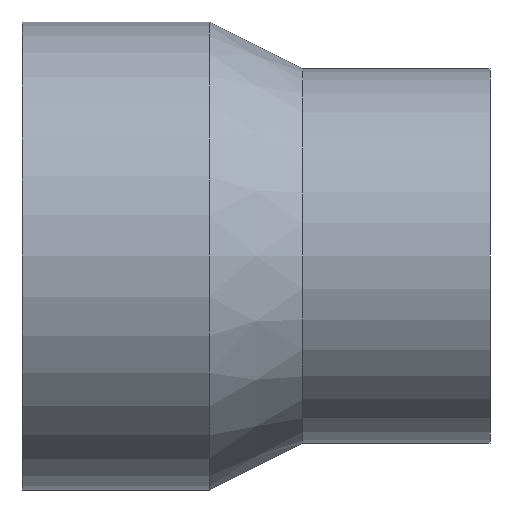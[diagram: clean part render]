
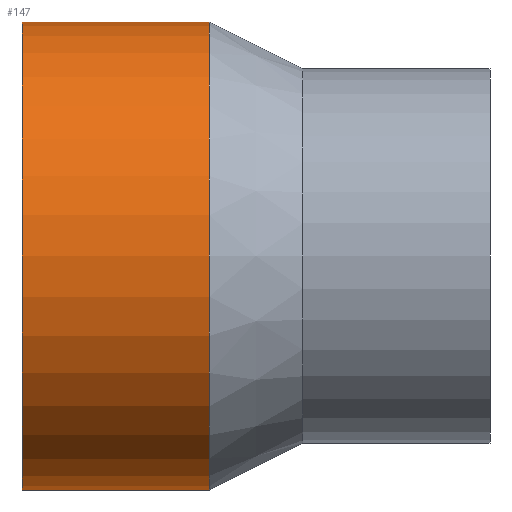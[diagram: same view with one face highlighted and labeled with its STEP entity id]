
A CAD part, front view. The second image highlights one B-rep face of the part: STEP entity #147.
In plain terms, the highlighted cylindrical face has radius 31.75 mm (diameter 63.5 mm), a partial arc.
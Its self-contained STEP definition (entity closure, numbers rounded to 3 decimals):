
#5 = ORIENTED_EDGE ( 'NONE', *, *, #163, .T. ) ;
#38 = CARTESIAN_POINT ( 'NONE',  ( -63.937, 0., -31.75 ) ) ;
#52 = DIRECTION ( 'NONE',  ( -1., 0., 0. ) ) ;
#76 = CARTESIAN_POINT ( 'NONE',  ( -63.937, 0., 0. ) ) ;
#85 = DIRECTION ( 'NONE',  ( -1., 0., 0. ) ) ;
#91 = CIRCLE ( 'NONE', #379, 31.75 ) ;
#92 = DIRECTION ( 'NONE',  ( -1., 0., 0. ) ) ;
#103 = EDGE_LOOP ( 'NONE', ( #331, #332, #5, #271 ) ) ;
#106 = DIRECTION ( 'NONE',  ( 0., 0., 1. ) ) ;
#108 = AXIS2_PLACEMENT_3D ( 'NONE', #283, #92, #310 ) ;
#135 = LINE ( 'NONE', #160, #300 ) ;
#147 = ADVANCED_FACE ( 'NONE', ( #317 ), #206, .T. ) ;
#160 = CARTESIAN_POINT ( 'NONE',  ( -63.937, 0., 31.75 ) ) ;
#163 = EDGE_CURVE ( 'NONE', #244, #238, #135, .T. ) ;
#184 = CARTESIAN_POINT ( 'NONE',  ( 25.4, 0., 31.75 ) ) ;
#186 = EDGE_CURVE ( 'NONE', #230, #303, #308, .T. ) ;
#206 = CYLINDRICAL_SURFACE ( 'NONE', #405, 31.75 ) ;
#219 = DIRECTION ( 'NONE',  ( -1., 0., 0. ) ) ;
#230 = VERTEX_POINT ( 'NONE', #356 ) ;
#238 = VERTEX_POINT ( 'NONE', #316 ) ;
#244 = VERTEX_POINT ( 'NONE', #184 ) ;
#271 = ORIENTED_EDGE ( 'NONE', *, *, #402, .F. ) ;
#280 = EDGE_CURVE ( 'NONE', #230, #244, #91, .T. ) ;
#283 = CARTESIAN_POINT ( 'NONE',  ( 0., 0., 0. ) ) ;
#299 = CARTESIAN_POINT ( 'NONE',  ( 0., 0., -31.75 ) ) ;
#300 = VECTOR ( 'NONE', #311, 1000. ) ;
#303 = VERTEX_POINT ( 'NONE', #299 ) ;
#308 = LINE ( 'NONE', #38, #348 ) ;
#310 = DIRECTION ( 'NONE',  ( 0., 0., 1. ) ) ;
#311 = DIRECTION ( 'NONE',  ( -1., 0., 0. ) ) ;
#316 = CARTESIAN_POINT ( 'NONE',  ( 0., 0., 31.75 ) ) ;
#317 = FACE_OUTER_BOUND ( 'NONE', #103, .T. ) ;
#331 = ORIENTED_EDGE ( 'NONE', *, *, #186, .F. ) ;
#332 = ORIENTED_EDGE ( 'NONE', *, *, #280, .T. ) ;
#348 = VECTOR ( 'NONE', #219, 1000. ) ;
#350 = CIRCLE ( 'NONE', #108, 31.75 ) ;
#356 = CARTESIAN_POINT ( 'NONE',  ( 25.4, 0., -31.75 ) ) ;
#379 = AXIS2_PLACEMENT_3D ( 'NONE', #410, #85, #106 ) ;
#401 = DIRECTION ( 'NONE',  ( 0., 0., 1. ) ) ;
#402 = EDGE_CURVE ( 'NONE', #303, #238, #350, .T. ) ;
#405 = AXIS2_PLACEMENT_3D ( 'NONE', #76, #52, #401 ) ;
#410 = CARTESIAN_POINT ( 'NONE',  ( 25.4, 0., 0. ) ) ;
